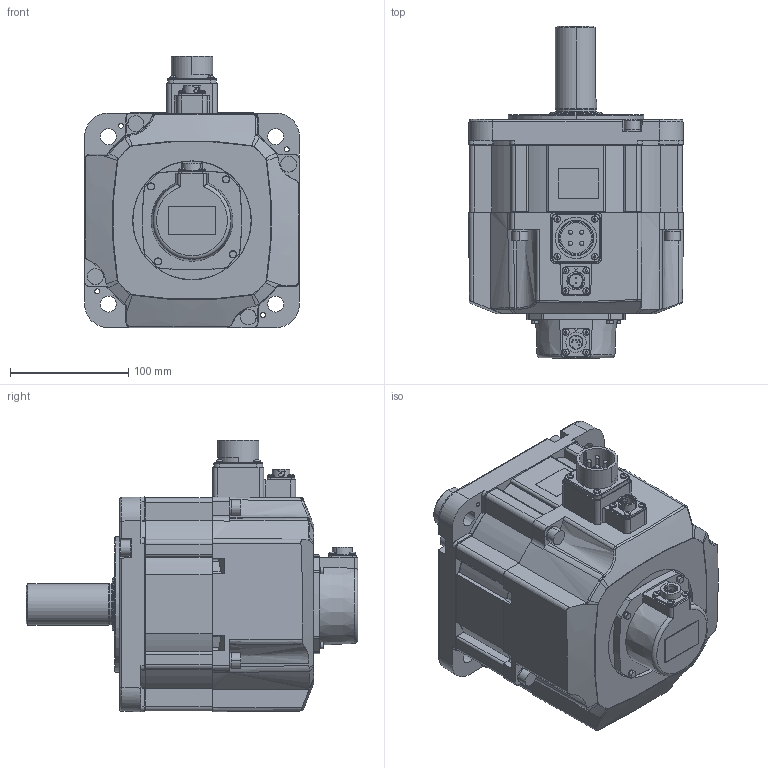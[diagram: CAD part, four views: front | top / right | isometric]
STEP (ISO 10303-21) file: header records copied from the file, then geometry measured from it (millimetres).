
FILE_DESCRIPTION((''),'2;1');
FILE_NAME('ECM-B3M-E21830SS1','2019-05-31T',('MIO.CHEN'),(''),'CREO PARAMETRIC BY PTC INC, 2015080','CREO PARAMETRIC BY PTC INC, 2015080','');
FILE_SCHEMA(('CONFIG_CONTROL_DESIGN'));
Length unit declared in the file: millimetre
Products named in the file (1): ECM-B3M-E21830SS1
Bounding box: 181.49 x 280.5 x 229.44 mm (x, y, z)
Volume: 4833598.1 mm3; surface area: 229772.5 mm2
Topology: 1 solids, 3 shells, 1192 faces, 3057 edges, 1969 vertices
Faces by surface type: cylinder 502, plane 401, bspline 113, cone 112, torus 47, sphere 13, extrusion 4
Entity records: 42468 total; most frequent: CARTESIAN_POINT 13580, ORIENTED_EDGE 6094, DIRECTION 6032, EDGE_CURVE 3047, AXIS2_PLACEMENT_3D 2331, VERTEX_POINT 1969, VECTOR 1370, LINE 1366
